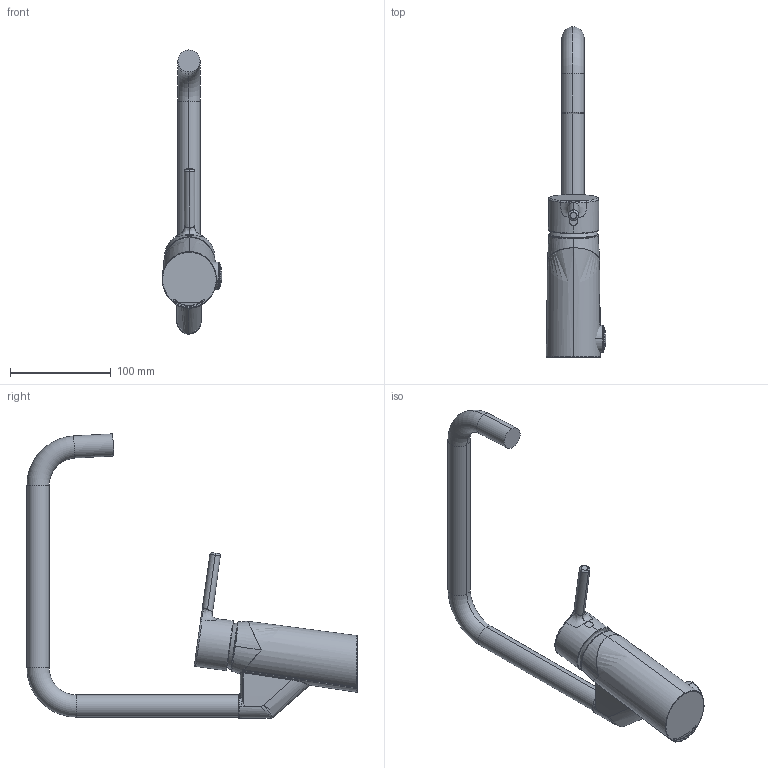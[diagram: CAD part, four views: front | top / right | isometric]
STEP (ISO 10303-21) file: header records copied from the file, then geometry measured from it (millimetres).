
FILE_DESCRIPTION (( 'STEP AP203' ), '1' );
FILE_NAME ('2734FHN-33(2023).STEP', '2023-10-18T09:50:25', ( '' ), ( '' ), 'SwSTEP 2.0', 'SolidWorks 2016', '' );
FILE_SCHEMA (( 'CONFIG_CONTROL_DESIGN' ));
Length unit declared in the file: millimetre
Products named in the file (1): 2734FHN-33(2023)
Bounding box: 58.96 x 327.83 x 282.28 mm (x, y, z)
Surface area: 110939 mm2 (no closed solid volume)
Topology: 0 solids, 9 shells, 224 faces, 548 edges, 341 vertices
Faces by surface type: bspline 128, cylinder 41, plane 36, torus 10, cone 8, sphere 1
Entity records: 86801 total; most frequent: CARTESIAN_POINT 82648, ORIENTED_EDGE 1076, EDGE_CURVE 545, DIRECTION 484, B_SPLINE_CURVE_WITH_KNOTS 341, VERTEX_POINT 339, EDGE_LOOP 227, ADVANCED_FACE 224
